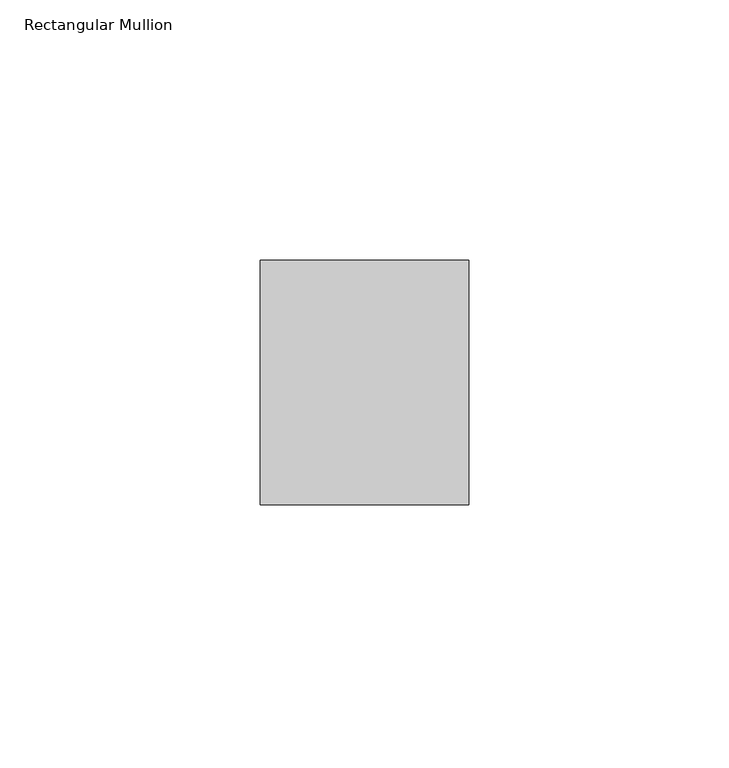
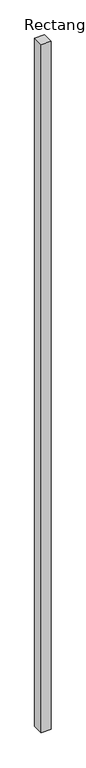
"""IFC4 building model written with IfcOpenShell, lengths in millimetres: member geometry, Rectangular Mullion : RSen_21_CWM_support profile - 40x47 - left_gen_duco projects."""

from ifc_helpers import new_model, si_unit, frame, origin, place, context, project, spatial, polyline, outline, extrude, source, transform, mapped, element, save


def rectangular_mullion_98630f9b(model_context):
    return source(origin(), model_context, "Body", "SweptSolid", [
        extrude(outline(polyline([(-50.0, 1.0), (-50.0, -46.0), (-90.0, -46.0), (-90.0, 1.0), (-50.0, 1.0)])), frame((0.0, 0.0, -3000.0), z_axis=(0.0, 0.0, 1.0), x_axis=(1.0, 0.0, 0.0)), (0.0, 0.0, 1.0), 3000.0),
    ])


if __name__ == "__main__":
    model = new_model("IFC4")
    model_context = context("Model", 3, world=origin())
    ifc_project = project(units=[si_unit("LENGTHUNIT", "METRE", prefix="MILLI")], contexts=[model_context])
    site = spatial("IfcSite", under=ifc_project)
    building = spatial("IfcBuilding", under=site)
    placement = place(None, origin())
    rectangular_mullion_shape = rectangular_mullion_98630f9b(model_context)
    element("IfcMember", 1, ObjectType="Rectangular Mullion : RSen_21_CWM_support profile - 40x47 - left_gen_duco projects", at=placement, inside=building, context=model_context, shape_type="MappedRepresentation", body=[
        mapped(rectangular_mullion_shape, transform((0.0, 0.0, 0.0), x_axis=(1.0, 0.0, 0.0), y_axis=(0.0, 1.0, 0.0), z_axis=(0.0, 0.0, 1.0))),
    ])
    save(model, "model.ifc")
